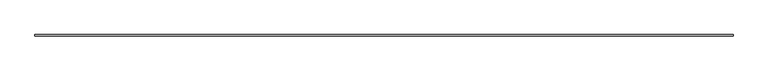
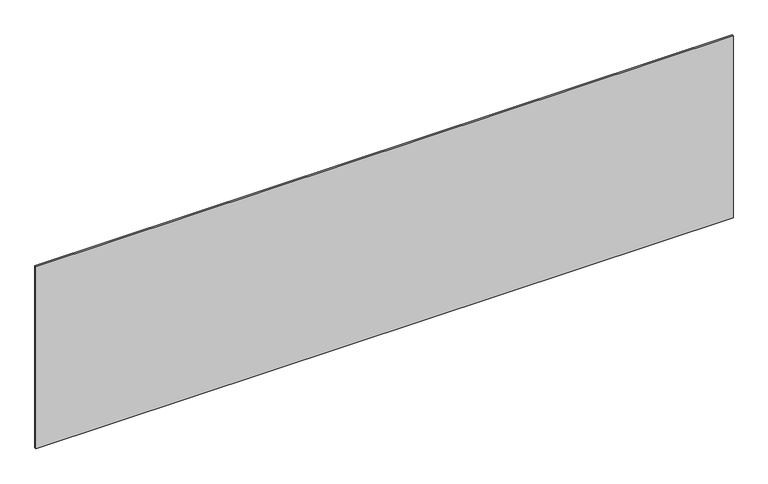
"""IFC4 building model written with IfcOpenShell, lengths in millimetres: plate geometry, システム パネル : 標準."""

from ifc_helpers import new_model, si_unit, origin, origin_with_axes, place, context, project, spatial, polyline, outline, extrude, source, transform, mapped, element, save


def plate_1f6e643f(model_context):
    return source(origin(), model_context, "Body", "SweptSolid", [
        extrude(outline(polyline([(2264.1666667, -5.0), (-2264.1666667, -5.0), (-2264.1666667, 5.0), (2264.1666667, 5.0), (2264.1666667, -5.0)])), origin_with_axes(), (0.0, 0.0, 1.0), 1249.3695227),
    ])


if __name__ == "__main__":
    model = new_model("IFC4")
    model_context = context("Model", 3, world=origin())
    ifc_project = project(units=[si_unit("LENGTHUNIT", "METRE", prefix="MILLI")], contexts=[model_context])
    site = spatial("IfcSite", under=ifc_project)
    building = spatial("IfcBuilding", under=site)
    placement = place(None, origin())
    plate_shape = plate_1f6e643f(model_context)
    element("IfcPlate", 1, ObjectType="システム パネル : 標準", at=placement, inside=building, context=model_context, shape_type="MappedRepresentation", body=[
        mapped(plate_shape, transform((0.0, 0.0, 0.0), x_axis=(1.0, 0.0, 0.0), y_axis=(0.0, 1.0, 0.0), z_axis=(0.0, 0.0, 1.0))),
    ])
    save(model, "model.ifc")
